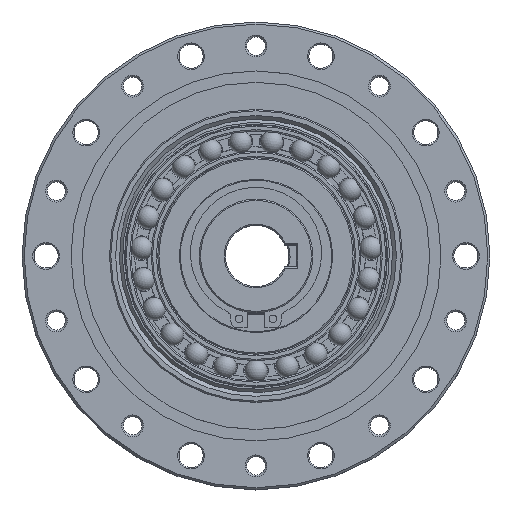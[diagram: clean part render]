
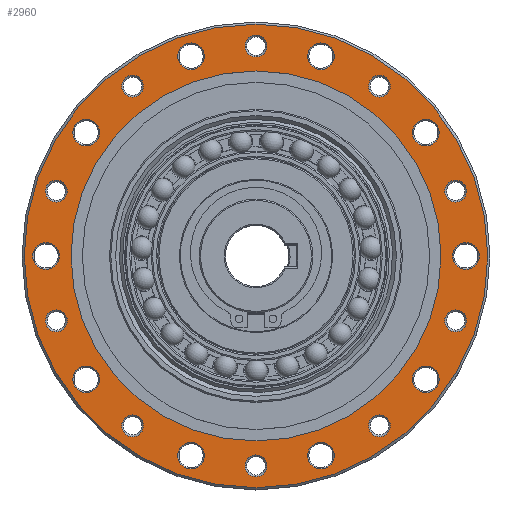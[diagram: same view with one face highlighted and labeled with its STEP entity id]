
A CAD part, top view. The second image highlights one B-rep face of the part: STEP entity #2960.
In plain terms, the highlighted planar face has unit normal (0, 0, 1).
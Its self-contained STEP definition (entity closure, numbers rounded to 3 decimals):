
#2960=ADVANCED_FACE('',(#4356,#4357,#4358,#4359,#4360,#4361,#4362,#4363,
#4364,#4365,#4366,#4367,#4368,#4369,#4370,#4371,#4372,#4373,#4374,#4375,
#4376,#4377),#3641,.T.);
#3641=PLANE('',#13544);
#4356=FACE_BOUND('',#5534,.T.);
#4357=FACE_BOUND('',#5535,.T.);
#4358=FACE_BOUND('',#5536,.T.);
#4359=FACE_BOUND('',#5537,.T.);
#4360=FACE_BOUND('',#5538,.T.);
#4361=FACE_BOUND('',#5539,.T.);
#4362=FACE_BOUND('',#5540,.T.);
#4363=FACE_BOUND('',#5541,.T.);
#4364=FACE_BOUND('',#5542,.T.);
#4365=FACE_BOUND('',#5543,.T.);
#4366=FACE_BOUND('',#5544,.T.);
#4367=FACE_BOUND('',#5545,.T.);
#4368=FACE_BOUND('',#5546,.T.);
#4369=FACE_BOUND('',#5547,.T.);
#4370=FACE_BOUND('',#5548,.T.);
#4371=FACE_BOUND('',#5549,.T.);
#4372=FACE_BOUND('',#5550,.T.);
#4373=FACE_BOUND('',#5551,.T.);
#4374=FACE_BOUND('',#5552,.T.);
#4375=FACE_BOUND('',#5553,.T.);
#4376=FACE_BOUND('',#5554,.T.);
#4377=FACE_BOUND('',#5555,.T.);
#5534=EDGE_LOOP('',(#7004));
#5535=EDGE_LOOP('',(#7005));
#5536=EDGE_LOOP('',(#7006));
#5537=EDGE_LOOP('',(#7007));
#5538=EDGE_LOOP('',(#7008));
#5539=EDGE_LOOP('',(#7009));
#5540=EDGE_LOOP('',(#7010));
#5541=EDGE_LOOP('',(#7011));
#5542=EDGE_LOOP('',(#7012));
#5543=EDGE_LOOP('',(#7013));
#5544=EDGE_LOOP('',(#7014));
#5545=EDGE_LOOP('',(#7015));
#5546=EDGE_LOOP('',(#7016));
#5547=EDGE_LOOP('',(#7017));
#5548=EDGE_LOOP('',(#7018));
#5549=EDGE_LOOP('',(#7019));
#5550=EDGE_LOOP('',(#7020));
#5551=EDGE_LOOP('',(#7021));
#5552=EDGE_LOOP('',(#7022));
#5553=EDGE_LOOP('',(#7023));
#5554=EDGE_LOOP('',(#7024));
#5555=EDGE_LOOP('',(#7025));
#7004=ORIENTED_EDGE('',*,*,#10922,.T.);
#7005=ORIENTED_EDGE('',*,*,#10923,.T.);
#7006=ORIENTED_EDGE('',*,*,#10924,.T.);
#7007=ORIENTED_EDGE('',*,*,#10925,.T.);
#7008=ORIENTED_EDGE('',*,*,#10926,.T.);
#7009=ORIENTED_EDGE('',*,*,#10927,.T.);
#7010=ORIENTED_EDGE('',*,*,#10928,.T.);
#7011=ORIENTED_EDGE('',*,*,#10929,.T.);
#7012=ORIENTED_EDGE('',*,*,#10930,.T.);
#7013=ORIENTED_EDGE('',*,*,#10931,.T.);
#7014=ORIENTED_EDGE('',*,*,#10932,.T.);
#7015=ORIENTED_EDGE('',*,*,#10933,.T.);
#7016=ORIENTED_EDGE('',*,*,#10934,.T.);
#7017=ORIENTED_EDGE('',*,*,#10935,.T.);
#7018=ORIENTED_EDGE('',*,*,#10936,.T.);
#7019=ORIENTED_EDGE('',*,*,#10937,.T.);
#7020=ORIENTED_EDGE('',*,*,#10938,.T.);
#7021=ORIENTED_EDGE('',*,*,#10939,.T.);
#7022=ORIENTED_EDGE('',*,*,#10940,.T.);
#7023=ORIENTED_EDGE('',*,*,#10941,.T.);
#7024=ORIENTED_EDGE('',*,*,#10942,.T.);
#7025=ORIENTED_EDGE('',*,*,#10921,.F.);
#9730=VERTEX_POINT('',#19666);
#9731=VERTEX_POINT('',#19669);
#9732=VERTEX_POINT('',#19671);
#9733=VERTEX_POINT('',#19673);
#9734=VERTEX_POINT('',#19675);
#9735=VERTEX_POINT('',#19677);
#9736=VERTEX_POINT('',#19679);
#9737=VERTEX_POINT('',#19681);
#9738=VERTEX_POINT('',#19683);
#9739=VERTEX_POINT('',#19685);
#9740=VERTEX_POINT('',#19687);
#9741=VERTEX_POINT('',#19689);
#9742=VERTEX_POINT('',#19691);
#9743=VERTEX_POINT('',#19693);
#9744=VERTEX_POINT('',#19695);
#9745=VERTEX_POINT('',#19697);
#9746=VERTEX_POINT('',#19699);
#9747=VERTEX_POINT('',#19701);
#9748=VERTEX_POINT('',#19703);
#9749=VERTEX_POINT('',#19705);
#9750=VERTEX_POINT('',#19707);
#9751=VERTEX_POINT('',#19709);
#10921=EDGE_CURVE('',#9730,#9730,#12400,.T.);
#10922=EDGE_CURVE('',#9731,#9731,#12401,.T.);
#10923=EDGE_CURVE('',#9732,#9732,#12402,.T.);
#10924=EDGE_CURVE('',#9733,#9733,#12403,.T.);
#10925=EDGE_CURVE('',#9734,#9734,#12404,.T.);
#10926=EDGE_CURVE('',#9735,#9735,#12405,.T.);
#10927=EDGE_CURVE('',#9736,#9736,#12406,.T.);
#10928=EDGE_CURVE('',#9737,#9737,#12407,.T.);
#10929=EDGE_CURVE('',#9738,#9738,#12408,.T.);
#10930=EDGE_CURVE('',#9739,#9739,#12409,.T.);
#10931=EDGE_CURVE('',#9740,#9740,#12410,.T.);
#10932=EDGE_CURVE('',#9741,#9741,#12411,.T.);
#10933=EDGE_CURVE('',#9742,#9742,#12412,.T.);
#10934=EDGE_CURVE('',#9743,#9743,#12413,.T.);
#10935=EDGE_CURVE('',#9744,#9744,#12414,.T.);
#10936=EDGE_CURVE('',#9745,#9745,#12415,.T.);
#10937=EDGE_CURVE('',#9746,#9746,#12416,.T.);
#10938=EDGE_CURVE('',#9747,#9747,#12417,.T.);
#10939=EDGE_CURVE('',#9748,#9748,#12418,.T.);
#10940=EDGE_CURVE('',#9749,#9749,#12419,.T.);
#10941=EDGE_CURVE('',#9750,#9750,#12420,.T.);
#10942=EDGE_CURVE('',#9751,#9751,#12421,.T.);
#12400=CIRCLE('',#13521,53.);
#12401=CIRCLE('',#13523,3.05);
#12402=CIRCLE('',#13524,2.5);
#12403=CIRCLE('',#13525,3.05);
#12404=CIRCLE('',#13526,2.5);
#12405=CIRCLE('',#13527,3.05);
#12406=CIRCLE('',#13528,2.5);
#12407=CIRCLE('',#13529,3.05);
#12408=CIRCLE('',#13530,2.5);
#12409=CIRCLE('',#13531,3.05);
#12410=CIRCLE('',#13532,2.5);
#12411=CIRCLE('',#13533,3.05);
#12412=CIRCLE('',#13534,2.5);
#12413=CIRCLE('',#13535,3.05);
#12414=CIRCLE('',#13536,2.5);
#12415=CIRCLE('',#13537,3.05);
#12416=CIRCLE('',#13538,2.5);
#12417=CIRCLE('',#13539,3.05);
#12418=CIRCLE('',#13540,2.5);
#12419=CIRCLE('',#13541,3.05);
#12420=CIRCLE('',#13542,2.5);
#12421=CIRCLE('',#13543,42.3);
#13521=AXIS2_PLACEMENT_3D('',#19665,#15808,#15809);
#13523=AXIS2_PLACEMENT_3D('',#19668,#15812,#15813);
#13524=AXIS2_PLACEMENT_3D('',#19670,#15814,#15815);
#13525=AXIS2_PLACEMENT_3D('',#19672,#15816,#15817);
#13526=AXIS2_PLACEMENT_3D('',#19674,#15818,#15819);
#13527=AXIS2_PLACEMENT_3D('',#19676,#15820,#15821);
#13528=AXIS2_PLACEMENT_3D('',#19678,#15822,#15823);
#13529=AXIS2_PLACEMENT_3D('',#19680,#15824,#15825);
#13530=AXIS2_PLACEMENT_3D('',#19682,#15826,#15827);
#13531=AXIS2_PLACEMENT_3D('',#19684,#15828,#15829);
#13532=AXIS2_PLACEMENT_3D('',#19686,#15830,#15831);
#13533=AXIS2_PLACEMENT_3D('',#19688,#15832,#15833);
#13534=AXIS2_PLACEMENT_3D('',#19690,#15834,#15835);
#13535=AXIS2_PLACEMENT_3D('',#19692,#15836,#15837);
#13536=AXIS2_PLACEMENT_3D('',#19694,#15838,#15839);
#13537=AXIS2_PLACEMENT_3D('',#19696,#15840,#15841);
#13538=AXIS2_PLACEMENT_3D('',#19698,#15842,#15843);
#13539=AXIS2_PLACEMENT_3D('',#19700,#15844,#15845);
#13540=AXIS2_PLACEMENT_3D('',#19702,#15846,#15847);
#13541=AXIS2_PLACEMENT_3D('',#19704,#15848,#15849);
#13542=AXIS2_PLACEMENT_3D('',#19706,#15850,#15851);
#13543=AXIS2_PLACEMENT_3D('',#19708,#15852,#15853);
#13544=AXIS2_PLACEMENT_3D('',#19710,#15854,#15855);
#15808=DIRECTION('',(0.,0.,-1.));
#15809=DIRECTION('',(-1.,0.,0.));
#15812=DIRECTION('',(0.,0.,-1.));
#15813=DIRECTION('',(1.,0.,0.));
#15814=DIRECTION('',(0.,0.,-1.));
#15815=DIRECTION('',(1.,0.,0.));
#15816=DIRECTION('',(0.,0.,-1.));
#15817=DIRECTION('',(1.,0.,0.));
#15818=DIRECTION('',(0.,0.,-1.));
#15819=DIRECTION('',(1.,0.,0.));
#15820=DIRECTION('',(0.,0.,-1.));
#15821=DIRECTION('',(1.,0.,0.));
#15822=DIRECTION('',(0.,0.,-1.));
#15823=DIRECTION('',(1.,0.,0.));
#15824=DIRECTION('',(0.,0.,-1.));
#15825=DIRECTION('',(1.,0.,0.));
#15826=DIRECTION('',(0.,0.,-1.));
#15827=DIRECTION('',(1.,0.,0.));
#15828=DIRECTION('',(0.,0.,-1.));
#15829=DIRECTION('',(1.,0.,0.));
#15830=DIRECTION('',(0.,0.,-1.));
#15831=DIRECTION('',(1.,0.,0.));
#15832=DIRECTION('',(0.,0.,-1.));
#15833=DIRECTION('',(1.,0.,0.));
#15834=DIRECTION('',(0.,0.,-1.));
#15835=DIRECTION('',(1.,0.,0.));
#15836=DIRECTION('',(0.,0.,-1.));
#15837=DIRECTION('',(1.,0.,0.));
#15838=DIRECTION('',(0.,0.,-1.));
#15839=DIRECTION('',(1.,0.,0.));
#15840=DIRECTION('',(0.,0.,-1.));
#15841=DIRECTION('',(1.,0.,0.));
#15842=DIRECTION('',(0.,0.,-1.));
#15843=DIRECTION('',(1.,0.,0.));
#15844=DIRECTION('',(0.,0.,-1.));
#15845=DIRECTION('',(1.,0.,0.));
#15846=DIRECTION('',(0.,0.,-1.));
#15847=DIRECTION('',(1.,0.,0.));
#15848=DIRECTION('',(0.,0.,-1.));
#15849=DIRECTION('',(1.,0.,0.));
#15850=DIRECTION('',(0.,0.,-1.));
#15851=DIRECTION('',(1.,0.,0.));
#15852=DIRECTION('',(0.,0.,-1.));
#15853=DIRECTION('',(-1.,0.,0.));
#15854=DIRECTION('',(0.,0.,1.));
#15855=DIRECTION('',(1.,0.,0.));
#19665=CARTESIAN_POINT('',(0.,0.,29.3));
#19666=CARTESIAN_POINT('',(-53.,0.,29.3));
#19668=CARTESIAN_POINT('',(-28.214,38.833,29.3));
#19669=CARTESIAN_POINT('',(-25.164,38.833,29.3));
#19670=CARTESIAN_POINT('',(38.833,28.214,29.3));
#19671=CARTESIAN_POINT('',(41.333,28.214,29.3));
#19672=CARTESIAN_POINT('',(-45.651,14.833,29.3));
#19673=CARTESIAN_POINT('',(-42.601,14.833,29.3));
#19674=CARTESIAN_POINT('',(14.833,45.651,29.3));
#19675=CARTESIAN_POINT('',(17.333,45.651,29.3));
#19676=CARTESIAN_POINT('',(-45.651,-14.833,29.3));
#19677=CARTESIAN_POINT('',(-42.601,-14.833,29.3));
#19678=CARTESIAN_POINT('',(-14.833,45.651,29.3));
#19679=CARTESIAN_POINT('',(-12.333,45.651,29.3));
#19680=CARTESIAN_POINT('',(-28.214,-38.833,29.3));
#19681=CARTESIAN_POINT('',(-25.164,-38.833,29.3));
#19682=CARTESIAN_POINT('',(-38.833,28.214,29.3));
#19683=CARTESIAN_POINT('',(-36.333,28.214,29.3));
#19684=CARTESIAN_POINT('',(0.,-48.,29.3));
#19685=CARTESIAN_POINT('',(3.05,-48.,29.3));
#19686=CARTESIAN_POINT('',(-48.,0.,29.3));
#19687=CARTESIAN_POINT('',(-45.5,0.,29.3));
#19688=CARTESIAN_POINT('',(28.214,-38.833,29.3));
#19689=CARTESIAN_POINT('',(31.264,-38.833,29.3));
#19690=CARTESIAN_POINT('',(-38.833,-28.214,29.3));
#19691=CARTESIAN_POINT('',(-36.333,-28.214,29.3));
#19692=CARTESIAN_POINT('',(45.651,-14.833,29.3));
#19693=CARTESIAN_POINT('',(48.701,-14.833,29.3));
#19694=CARTESIAN_POINT('',(-14.833,-45.651,29.3));
#19695=CARTESIAN_POINT('',(-12.333,-45.651,29.3));
#19696=CARTESIAN_POINT('',(45.651,14.833,29.3));
#19697=CARTESIAN_POINT('',(48.701,14.833,29.3));
#19698=CARTESIAN_POINT('',(14.833,-45.651,29.3));
#19699=CARTESIAN_POINT('',(17.333,-45.651,29.3));
#19700=CARTESIAN_POINT('',(28.214,38.833,29.3));
#19701=CARTESIAN_POINT('',(31.264,38.833,29.3));
#19702=CARTESIAN_POINT('',(38.833,-28.214,29.3));
#19703=CARTESIAN_POINT('',(41.333,-28.214,29.3));
#19704=CARTESIAN_POINT('',(0.,48.,29.3));
#19705=CARTESIAN_POINT('',(3.05,48.,29.3));
#19706=CARTESIAN_POINT('',(48.,0.,29.3));
#19707=CARTESIAN_POINT('',(50.5,0.,29.3));
#19708=CARTESIAN_POINT('',(0.,0.,29.3));
#19709=CARTESIAN_POINT('',(-42.3,0.,29.3));
#19710=CARTESIAN_POINT('',(53.,0.,29.3));
